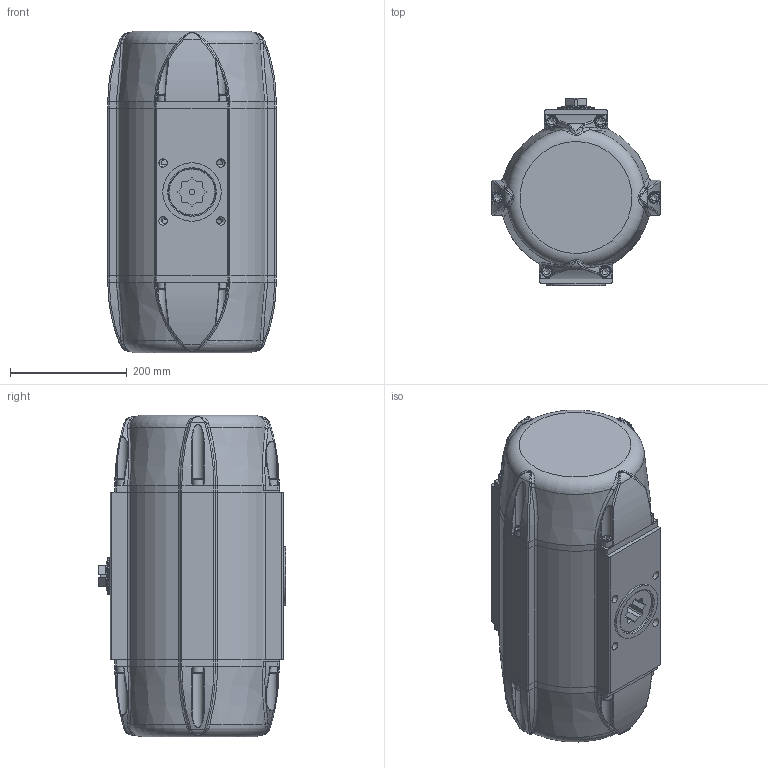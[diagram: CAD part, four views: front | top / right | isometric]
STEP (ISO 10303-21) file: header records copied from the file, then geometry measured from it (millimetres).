
FILE_DESCRIPTION((''),'2;1');
FILE_NAME('C:\Dokumente und Einstellungen\kir\Desktop\Iges step\SAF 42.stp','2006-12-21T07:47:39',('kir'),(''),'Autodesk Inventor 10','Autodesk Inventor 10','');
FILE_SCHEMA(('AUTOMOTIVE_DESIGN { 1 0 10303 214 1 1 1 1 }'));
Length unit declared in the file: millimetre
Products named in the file (1): ENG-040019
Bounding box: 288 x 320 x 550.2 mm (x, y, z)
Volume: 6341969 mm3; surface area: 1187197 mm2
Topology: 26 solids, 26 shells, 1031 faces, 2604 edges, 1622 vertices
Faces by surface type: bspline 339, plane 308, cylinder 272, cone 64, torus 48
Full cylindrical faces by diameter (mm): 2.5 x2, 10.376 x6, 12 x12, 13 x6, 18 x12, 37 x1, 45 x2, 46 x1, 46.3 x1, 49.8 x3, 50.1 x1, 63 x2, 64 x1, 75 x3, 79.8 x3, 100 x1, 236 x1, 250.085 x1, 251.577 x1
Entity records: 57454 total; most frequent: CARTESIAN_POINT 36046, ORIENTED_EDGE 4552, DIRECTION 3951, EDGE_CURVE 2276, AXIS2_PLACEMENT_3D 1633, VERTEX_POINT 1492, EDGE_LOOP 1286, FACE_OUTER_BOUND 1030
